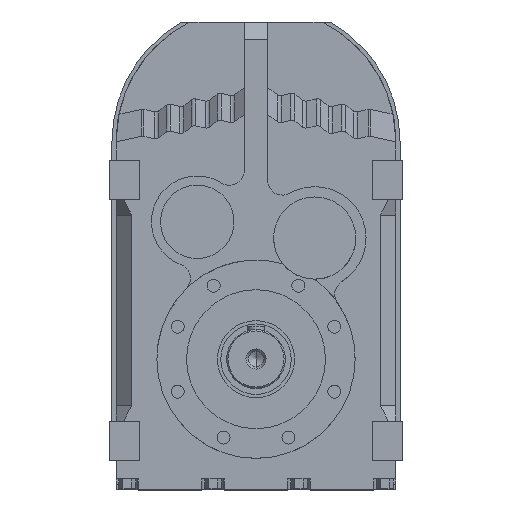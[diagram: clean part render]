
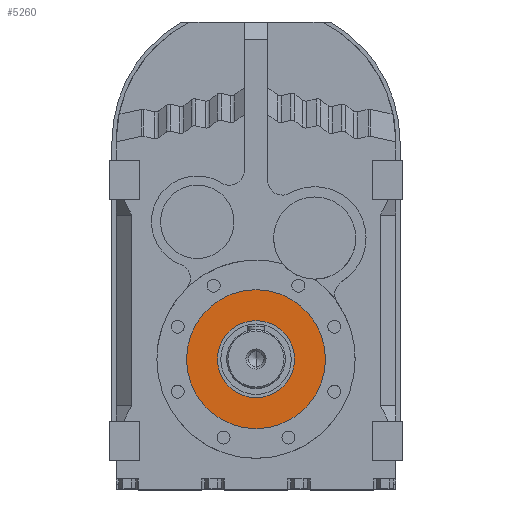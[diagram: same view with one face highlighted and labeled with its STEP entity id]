
A CAD part, top view. The second image highlights one B-rep face of the part: STEP entity #5260.
In plain terms, the highlighted planar face has unit normal (0, 0, 1).
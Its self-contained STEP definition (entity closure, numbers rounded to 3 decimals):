
#758 = CYLINDRICAL_SURFACE('',#759,106.5);
#759 = AXIS2_PLACEMENT_3D('',#760,#761,#762);
#760 = CARTESIAN_POINT('',(0.,-332.4,110.123));
#761 = DIRECTION('',(0.,0.,1.));
#762 = DIRECTION('',(1.,0.,0.));
#784 = CYLINDRICAL_SURFACE('',#785,106.5);
#785 = AXIS2_PLACEMENT_3D('',#786,#787,#788);
#786 = CARTESIAN_POINT('',(0.,-332.4,110.123));
#787 = DIRECTION('',(0.,0.,1.));
#788 = DIRECTION('',(1.,0.,0.));
#1523 = EDGE_CURVE('',#1524,#1526,#1528,.T.);
#1524 = VERTEX_POINT('',#1525);
#1525 = CARTESIAN_POINT('',(-106.5,-332.4,308.));
#1526 = VERTEX_POINT('',#1527);
#1527 = CARTESIAN_POINT('',(106.5,-332.4,308.));
#1528 = SURFACE_CURVE('',#1529,(#1534,#1540),.PCURVE_S1.);
#1529 = CIRCLE('',#1530,106.5);
#1530 = AXIS2_PLACEMENT_3D('',#1531,#1532,#1533);
#1531 = CARTESIAN_POINT('',(0.,-332.4,308.));
#1532 = DIRECTION('',(0.,0.,1.));
#1533 = DIRECTION('',(1.,0.,0.));
#1534 = PCURVE('',#784,#1535);
#1535 = DEFINITIONAL_REPRESENTATION('',(#1536),#1539);
#1536 = B_SPLINE_CURVE_WITH_KNOTS('',1,(#1537,#1538),.UNSPECIFIED.,.F.,
  .F.,(2,2),(3.142,6.283),.PIECEWISE_BEZIER_KNOTS.);
#1537 = CARTESIAN_POINT('',(3.142,197.877));
#1538 = CARTESIAN_POINT('',(6.283,197.877));
#1539 = ( GEOMETRIC_REPRESENTATION_CONTEXT(2) 
PARAMETRIC_REPRESENTATION_CONTEXT() REPRESENTATION_CONTEXT('2D SPACE',''
  ) );
#1540 = PCURVE('',#1541,#1546);
#1541 = PLANE('',#1542);
#1542 = AXIS2_PLACEMENT_3D('',#1543,#1544,#1545);
#1543 = CARTESIAN_POINT('',(0.,-225.9,308.));
#1544 = DIRECTION('',(0.,0.,1.));
#1545 = DIRECTION('',(1.,0.,0.));
#1546 = DEFINITIONAL_REPRESENTATION('',(#1547),#1551);
#1547 = CIRCLE('',#1548,106.5);
#1548 = AXIS2_PLACEMENT_2D('',#1549,#1550);
#1549 = CARTESIAN_POINT('',(0.,-106.5));
#1550 = DIRECTION('',(1.,0.));
#1551 = ( GEOMETRIC_REPRESENTATION_CONTEXT(2) 
PARAMETRIC_REPRESENTATION_CONTEXT() REPRESENTATION_CONTEXT('2D SPACE',''
  ) );
#1969 = EDGE_CURVE('',#1526,#1524,#1970,.T.);
#1970 = SURFACE_CURVE('',#1971,(#1976,#1982),.PCURVE_S1.);
#1971 = CIRCLE('',#1972,106.5);
#1972 = AXIS2_PLACEMENT_3D('',#1973,#1974,#1975);
#1973 = CARTESIAN_POINT('',(0.,-332.4,308.));
#1974 = DIRECTION('',(0.,0.,1.));
#1975 = DIRECTION('',(1.,0.,0.));
#1976 = PCURVE('',#758,#1977);
#1977 = DEFINITIONAL_REPRESENTATION('',(#1978),#1981);
#1978 = B_SPLINE_CURVE_WITH_KNOTS('',1,(#1979,#1980),.UNSPECIFIED.,.F.,
  .F.,(2,2),(0.,3.142),.PIECEWISE_BEZIER_KNOTS.);
#1979 = CARTESIAN_POINT('',(0.,197.877));
#1980 = CARTESIAN_POINT('',(3.142,197.877));
#1981 = ( GEOMETRIC_REPRESENTATION_CONTEXT(2) 
PARAMETRIC_REPRESENTATION_CONTEXT() REPRESENTATION_CONTEXT('2D SPACE',''
  ) );
#1982 = PCURVE('',#1541,#1983);
#1983 = DEFINITIONAL_REPRESENTATION('',(#1984),#1988);
#1984 = CIRCLE('',#1985,106.5);
#1985 = AXIS2_PLACEMENT_2D('',#1986,#1987);
#1986 = CARTESIAN_POINT('',(0.,-106.5));
#1987 = DIRECTION('',(1.,0.));
#1988 = ( GEOMETRIC_REPRESENTATION_CONTEXT(2) 
PARAMETRIC_REPRESENTATION_CONTEXT() REPRESENTATION_CONTEXT('2D SPACE',''
  ) );
#5260 = ADVANCED_FACE('',(#5261,#5265),#1541,.T.);
#5261 = FACE_BOUND('',#5262,.T.);
#5262 = EDGE_LOOP('',(#5263,#5264));
#5263 = ORIENTED_EDGE('',*,*,#1969,.T.);
#5264 = ORIENTED_EDGE('',*,*,#1523,.T.);
#5265 = FACE_BOUND('',#5266,.T.);
#5266 = EDGE_LOOP('',(#5267,#5297));
#5267 = ORIENTED_EDGE('',*,*,#5268,.F.);
#5268 = EDGE_CURVE('',#5269,#5271,#5273,.T.);
#5269 = VERTEX_POINT('',#5270);
#5270 = CARTESIAN_POINT('',(59.,-332.4,308.));
#5271 = VERTEX_POINT('',#5272);
#5272 = CARTESIAN_POINT('',(-59.,-332.4,308.));
#5273 = SURFACE_CURVE('',#5274,(#5279,#5286),.PCURVE_S1.);
#5274 = CIRCLE('',#5275,59.);
#5275 = AXIS2_PLACEMENT_3D('',#5276,#5277,#5278);
#5276 = CARTESIAN_POINT('',(0.,-332.4,308.));
#5277 = DIRECTION('',(0.,0.,1.));
#5278 = DIRECTION('',(1.,0.,0.));
#5279 = PCURVE('',#1541,#5280);
#5280 = DEFINITIONAL_REPRESENTATION('',(#5281),#5285);
#5281 = CIRCLE('',#5282,59.);
#5282 = AXIS2_PLACEMENT_2D('',#5283,#5284);
#5283 = CARTESIAN_POINT('',(0.,-106.5));
#5284 = DIRECTION('',(1.,0.));
#5285 = ( GEOMETRIC_REPRESENTATION_CONTEXT(2) 
PARAMETRIC_REPRESENTATION_CONTEXT() REPRESENTATION_CONTEXT('2D SPACE',''
  ) );
#5286 = PCURVE('',#5287,#5292);
#5287 = CYLINDRICAL_SURFACE('',#5288,59.);
#5288 = AXIS2_PLACEMENT_3D('',#5289,#5290,#5291);
#5289 = CARTESIAN_POINT('',(0.,-332.4,110.123));
#5290 = DIRECTION('',(0.,0.,1.));
#5291 = DIRECTION('',(1.,0.,0.));
#5292 = DEFINITIONAL_REPRESENTATION('',(#5293),#5296);
#5293 = B_SPLINE_CURVE_WITH_KNOTS('',1,(#5294,#5295),.UNSPECIFIED.,.F.,
  .F.,(2,2),(0.,3.142),.PIECEWISE_BEZIER_KNOTS.);
#5294 = CARTESIAN_POINT('',(0.,197.877));
#5295 = CARTESIAN_POINT('',(3.142,197.877));
#5296 = ( GEOMETRIC_REPRESENTATION_CONTEXT(2) 
PARAMETRIC_REPRESENTATION_CONTEXT() REPRESENTATION_CONTEXT('2D SPACE',''
  ) );
#5297 = ORIENTED_EDGE('',*,*,#5298,.F.);
#5298 = EDGE_CURVE('',#5271,#5269,#5299,.T.);
#5299 = SURFACE_CURVE('',#5300,(#5305,#5312),.PCURVE_S1.);
#5300 = CIRCLE('',#5301,59.);
#5301 = AXIS2_PLACEMENT_3D('',#5302,#5303,#5304);
#5302 = CARTESIAN_POINT('',(0.,-332.4,308.));
#5303 = DIRECTION('',(0.,0.,1.));
#5304 = DIRECTION('',(1.,0.,0.));
#5305 = PCURVE('',#1541,#5306);
#5306 = DEFINITIONAL_REPRESENTATION('',(#5307),#5311);
#5307 = CIRCLE('',#5308,59.);
#5308 = AXIS2_PLACEMENT_2D('',#5309,#5310);
#5309 = CARTESIAN_POINT('',(0.,-106.5));
#5310 = DIRECTION('',(1.,0.));
#5311 = ( GEOMETRIC_REPRESENTATION_CONTEXT(2) 
PARAMETRIC_REPRESENTATION_CONTEXT() REPRESENTATION_CONTEXT('2D SPACE',''
  ) );
#5312 = PCURVE('',#5313,#5318);
#5313 = CYLINDRICAL_SURFACE('',#5314,59.);
#5314 = AXIS2_PLACEMENT_3D('',#5315,#5316,#5317);
#5315 = CARTESIAN_POINT('',(0.,-332.4,110.123));
#5316 = DIRECTION('',(0.,0.,1.));
#5317 = DIRECTION('',(1.,0.,0.));
#5318 = DEFINITIONAL_REPRESENTATION('',(#5319),#5322);
#5319 = B_SPLINE_CURVE_WITH_KNOTS('',1,(#5320,#5321),.UNSPECIFIED.,.F.,
  .F.,(2,2),(3.142,6.283),.PIECEWISE_BEZIER_KNOTS.);
#5320 = CARTESIAN_POINT('',(3.142,197.877));
#5321 = CARTESIAN_POINT('',(6.283,197.877));
#5322 = ( GEOMETRIC_REPRESENTATION_CONTEXT(2) 
PARAMETRIC_REPRESENTATION_CONTEXT() REPRESENTATION_CONTEXT('2D SPACE',''
  ) );
